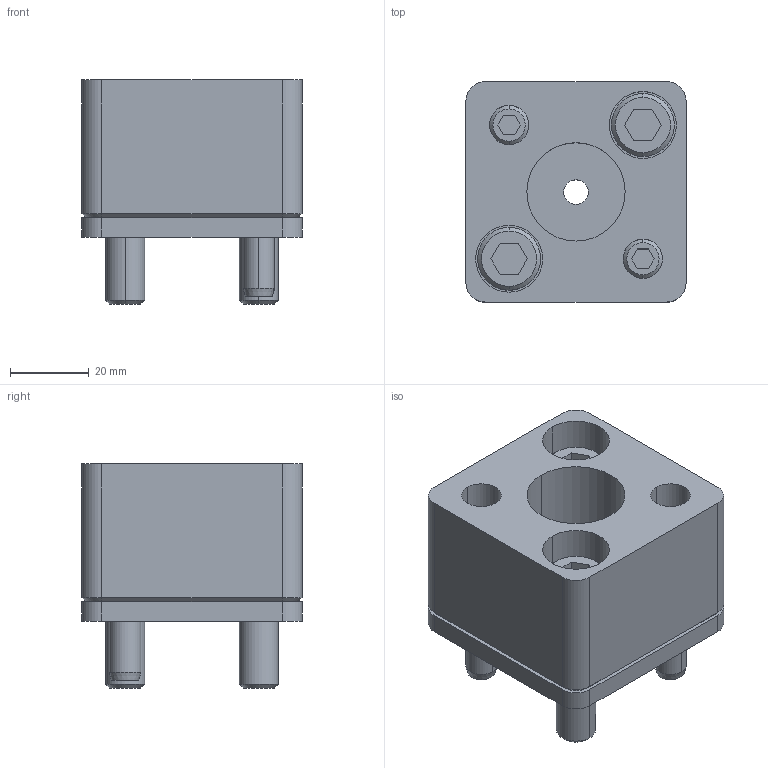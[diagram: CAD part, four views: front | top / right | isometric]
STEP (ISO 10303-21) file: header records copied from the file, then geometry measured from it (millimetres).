
FILE_DESCRIPTION(/* description */ (''),/* implementation_level */ '2;1');
FILE_NAME(/* name */ '3d_hsa-ap25_04180_r00.stp',/* time_stamp */ '2011-01-10T14:14:36+09:00',/* author */ ('MISUMI'),/* organization */ (''),/* preprocessor_version */ 'ST-DEVELOPER v11',/* originating_system */ 'UGS - NX 5.0',/* authorisation */ '');
FILE_SCHEMA (('CONFIG_CONTROL_DESIGN'));
Length unit declared in the file: millimetre
Products named in the file (1): 3d_hsa-ap25_04180_r00
Bounding box: 56 x 56 x 57 mm (x, y, z)
Volume: 100960.1 mm3; surface area: 34750 mm2
Topology: 8 solids, 8 shells, 163 faces, 364 edges, 232 vertices
Faces by surface type: plane 69, cylinder 64, cone 30
Entity records: 4686 total; most frequent: DIRECTION 840, CARTESIAN_POINT 814, ORIENTED_EDGE 728, EDGE_CURVE 364, AXIS2_PLACEMENT_3D 322, VERTEX_POINT 232, EDGE_LOOP 198, LINE 196
